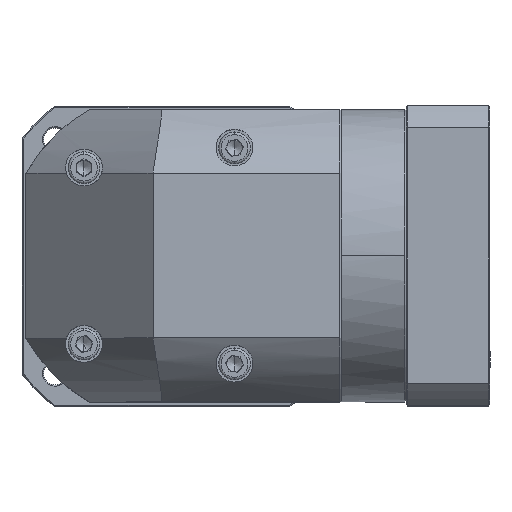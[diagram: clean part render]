
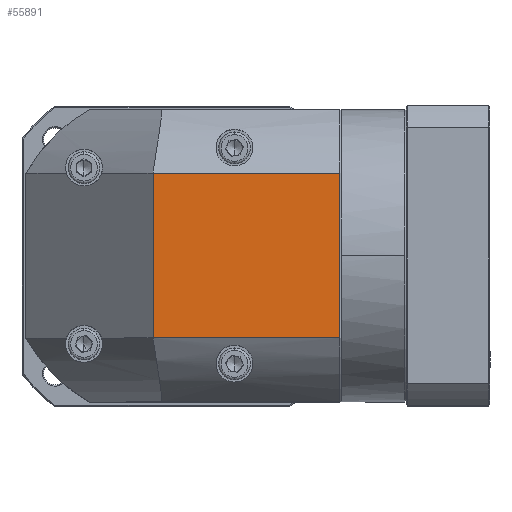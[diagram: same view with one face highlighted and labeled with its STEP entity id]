
A CAD part, top view. The second image highlights one B-rep face of the part: STEP entity #55891.
In plain terms, the highlighted planar face has unit normal (0, 0, 1).
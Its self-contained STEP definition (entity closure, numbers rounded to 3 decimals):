
#1612 = EDGE_CURVE ( 'NONE', #65029, #106044, #37925, .T. ) ;
#3535 = DIRECTION ( 'NONE',  ( 0., 0., -1. ) ) ;
#9874 = LINE ( 'NONE', #35675, #79595 ) ;
#13676 = EDGE_CURVE ( 'NONE', #110923, #69651, #16888, .T. ) ;
#16888 = LINE ( 'NONE', #28696, #123859 ) ;
#20876 = DIRECTION ( 'NONE',  ( -1., 0., 0. ) ) ;
#22754 = CARTESIAN_POINT ( 'NONE',  ( -41.099, 57.489, 252.64 ) ) ;
#23265 = ORIENTED_EDGE ( 'NONE', *, *, #76856, .F. ) ;
#27909 = VECTOR ( 'NONE', #54815, 1000. ) ;
#28696 = CARTESIAN_POINT ( 'NONE',  ( -164.499, 57.489, 252.64 ) ) ;
#28767 = AXIS2_PLACEMENT_3D ( 'NONE', #106878, #3535, #96926 ) ;
#35675 = CARTESIAN_POINT ( 'NONE',  ( -41.099, 82.589, 252.64 ) ) ;
#37925 = LINE ( 'NONE', #43040, #57469 ) ;
#43040 = CARTESIAN_POINT ( 'NONE',  ( -164.499, -7.311, 252.64 ) ) ;
#54815 = DIRECTION ( 'NONE',  ( 0., 1., 0. ) ) ;
#55740 = ORIENTED_EDGE ( 'NONE', *, *, #73597, .F. ) ;
#55891 = ADVANCED_FACE ( 'NONE', ( #81324 ), #96469, .F. ) ;
#57469 = VECTOR ( 'NONE', #20876, 1000. ) ;
#62481 = CARTESIAN_POINT ( 'NONE',  ( -114.499, 82.589, 252.64 ) ) ;
#65029 = VERTEX_POINT ( 'NONE', #120853 ) ;
#69651 = VERTEX_POINT ( 'NONE', #22754 ) ;
#73597 = EDGE_CURVE ( 'NONE', #69651, #65029, #9874, .T. ) ;
#76856 = EDGE_CURVE ( 'NONE', #106044, #110923, #110646, .T. ) ;
#79147 = ORIENTED_EDGE ( 'NONE', *, *, #1612, .F. ) ;
#79595 = VECTOR ( 'NONE', #128099, 1000. ) ;
#81324 = FACE_OUTER_BOUND ( 'NONE', #130705, .T. ) ;
#94807 = DIRECTION ( 'NONE',  ( 1., 0., 0. ) ) ;
#96469 = PLANE ( 'NONE',  #28767 ) ;
#96926 = DIRECTION ( 'NONE',  ( 0., -1., 0. ) ) ;
#102550 = ORIENTED_EDGE ( 'NONE', *, *, #13676, .F. ) ;
#106044 = VERTEX_POINT ( 'NONE', #108630 ) ;
#106878 = CARTESIAN_POINT ( 'NONE',  ( -106.999, 25.089, 252.64 ) ) ;
#108630 = CARTESIAN_POINT ( 'NONE',  ( -114.499, -7.311, 252.64 ) ) ;
#110374 = CARTESIAN_POINT ( 'NONE',  ( -114.499, 57.489, 252.64 ) ) ;
#110646 = LINE ( 'NONE', #62481, #27909 ) ;
#110923 = VERTEX_POINT ( 'NONE', #110374 ) ;
#120853 = CARTESIAN_POINT ( 'NONE',  ( -41.099, -7.311, 252.64 ) ) ;
#123859 = VECTOR ( 'NONE', #94807, 1000. ) ;
#128099 = DIRECTION ( 'NONE',  ( 0., -1., 0. ) ) ;
#130705 = EDGE_LOOP ( 'NONE', ( #102550, #23265, #79147, #55740 ) ) ;
